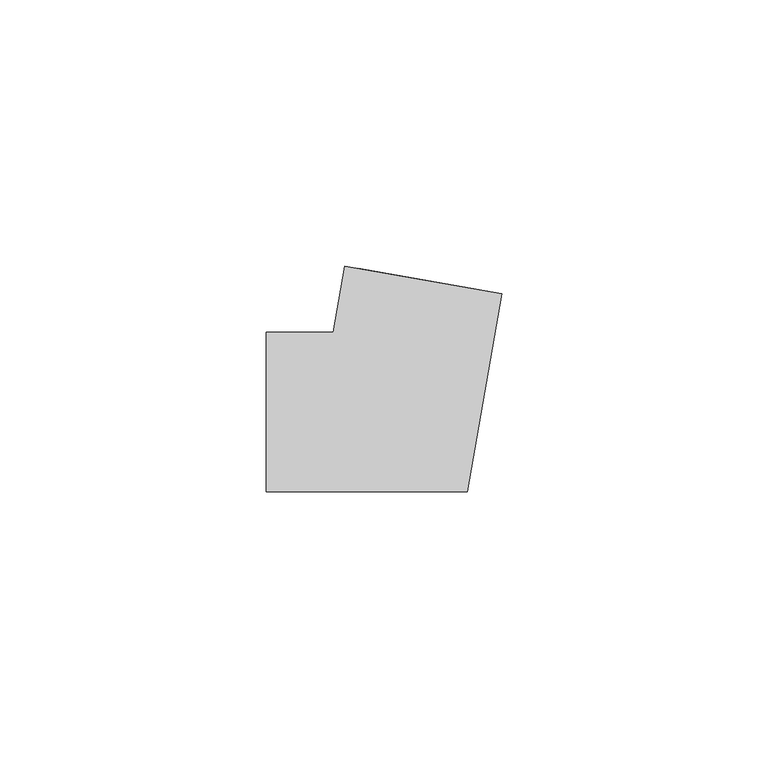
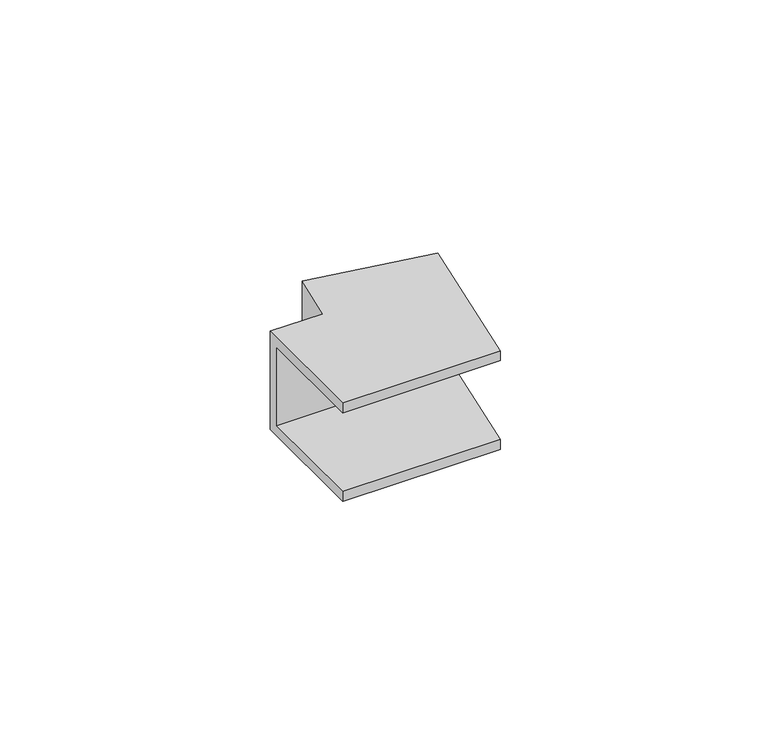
"""IFC4 building model written with IfcOpenShell, lengths in millimetres: cable carrier fitting geometry, КНС_УголВнешний_ILC_DKC : Угол внешний_DKC."""

from ifc_helpers import new_model, si_unit, origin, place, context, project, spatial, faceted_brep, source, transform, mapped, element, save


def cable_carrier_fitting_096d7609(model_context):
    return source(origin(), model_context, "Body", "Brep", [
        faceted_brep([(-25.1729889, 15.0, 12.5), (-25.1729889, 15.0, -12.5), (-25.1729889, -15.0, -12.5), (-25.1729889, -15.0, -10.0), (-25.1729889, 12.5, -10.0), (-25.1729889, 12.5, 10.0), (-25.1729889, -15.0, 10.0), (-25.1729889, -15.0, 12.5), (-10.4008726, 27.3952773, 12.5), (19.14336, 22.185832, 12.5), (19.14336, 22.185832, 10.0), (-7.9388533, 26.9611569, 10.0), (-7.9388533, 26.9611569, -10.0), (19.14336, 22.185832, -10.0), (19.14336, 22.185832, -12.5), (-10.4008726, 27.3952773, -12.5), (-12.5864945, 15.0, 12.5), (-12.5864945, 15.0, -12.5), (12.5864945, -15.0, -12.5), (12.5864945, -15.0, -10.0), (-10.4887454, 12.5, -10.0), (-10.4887454, 12.5, 10.0), (12.5864945, -15.0, 10.0), (12.5864945, -15.0, 12.5)], [[[0, 1, 2, 3, 4, 5, 6, 7]], [[8, 9, 10, 11, 12, 13, 14, 15]], [[1, 0, 16, 17]], [[2, 1, 17, 15, 14, 18]], [[3, 2, 18, 19]], [[4, 3, 19, 13, 12, 20]], [[5, 4, 20, 21]], [[6, 5, 21, 11, 10, 22]], [[7, 6, 22, 23]], [[0, 7, 23, 9, 8, 16]], [[17, 16, 8, 15]], [[19, 18, 14, 13]], [[21, 20, 12, 11]], [[23, 22, 10, 9]]]),
    ])


if __name__ == "__main__":
    model = new_model("IFC4")
    model_context = context("Model", 3, world=origin())
    ifc_project = project(units=[si_unit("LENGTHUNIT", "METRE", prefix="MILLI")], contexts=[model_context])
    site = spatial("IfcSite", under=ifc_project)
    building = spatial("IfcBuilding", under=site)
    placement = place(None, origin())
    cable_carrier_fitting_shape = cable_carrier_fitting_096d7609(model_context)
    element("IfcCableCarrierFitting", 1, ObjectType="КНС_УголВнешний_ILC_DKC : Угол внешний_DKC", at=placement, inside=building, context=model_context, shape_type="MappedRepresentation", body=[
        mapped(cable_carrier_fitting_shape, transform((0.0, 0.0, 0.0), x_axis=(1.0, 0.0, 0.0), y_axis=(0.0, 1.0, 0.0), z_axis=(0.0, 0.0, 1.0))),
    ])
    save(model, "model.ifc")
